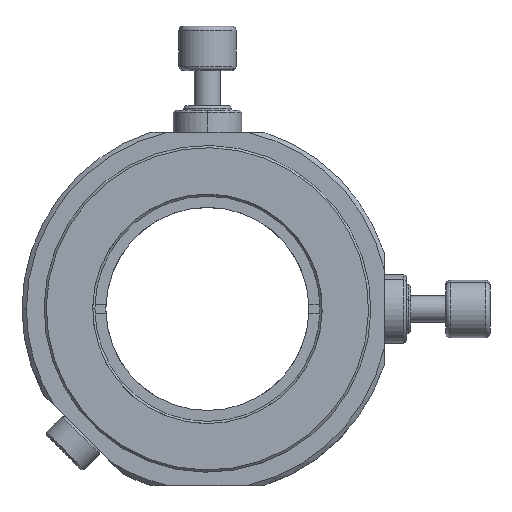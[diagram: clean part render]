
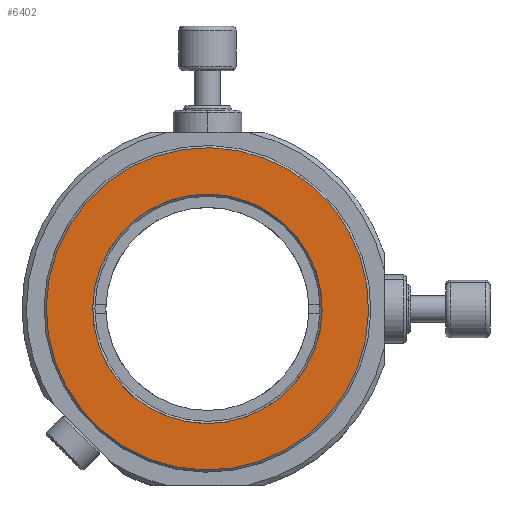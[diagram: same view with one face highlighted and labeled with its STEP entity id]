
A CAD part, top view. The second image highlights one B-rep face of the part: STEP entity #6402.
In plain terms, the highlighted planar face has unit normal (0, 0, 1).
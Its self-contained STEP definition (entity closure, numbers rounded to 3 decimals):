
#245 = DIRECTION ( 'NONE',  ( -0.483, 0.876, 0. ) ) ;
#248 = DIRECTION ( 'NONE',  ( 0., 0., 1. ) ) ;
#539 = AXIS2_PLACEMENT_3D ( 'NONE', #4267, #248, #3661 ) ;
#560 = EDGE_LOOP ( 'NONE', ( #6446, #3815 ) ) ;
#929 = VERTEX_POINT ( 'NONE', #2656 ) ;
#1027 = ORIENTED_EDGE ( 'NONE', *, *, #7204, .T. ) ;
#1042 = CARTESIAN_POINT ( 'NONE',  ( 1.422, -0.209, 26. ) ) ;
#1263 = FACE_OUTER_BOUND ( 'NONE', #560, .T. ) ;
#1362 = CIRCLE ( 'NONE', #539, 36.5 ) ;
#1575 = AXIS2_PLACEMENT_3D ( 'NONE', #5334, #6609, #3221 ) ;
#1678 = AXIS2_PLACEMENT_3D ( 'NONE', #6904, #2517, #245 ) ;
#2148 = CARTESIAN_POINT ( 'NONE',  ( 13.968, -22.982, 26. ) ) ;
#2517 = DIRECTION ( 'NONE',  ( 0., 0., 1. ) ) ;
#2518 = VERTEX_POINT ( 'NONE', #6725 ) ;
#2656 = CARTESIAN_POINT ( 'NONE',  ( 19.035, -32.178, 26. ) ) ;
#2747 = DIRECTION ( 'NONE',  ( 0., 0., -1. ) ) ;
#2770 = DIRECTION ( 'NONE',  ( -0.483, 0.876, 0. ) ) ;
#3221 = DIRECTION ( 'NONE',  ( -0.483, 0.876, 0. ) ) ;
#3395 = CIRCLE ( 'NONE', #1678, 36.5 ) ;
#3480 = FACE_BOUND ( 'NONE', #7053, .T. ) ;
#3661 = DIRECTION ( 'NONE',  ( -0.483, 0.876, 0. ) ) ;
#3815 = ORIENTED_EDGE ( 'NONE', *, *, #5906, .T. ) ;
#4215 = ORIENTED_EDGE ( 'NONE', *, *, #5053, .T. ) ;
#4267 = CARTESIAN_POINT ( 'NONE',  ( 1.422, -0.209, 26. ) ) ;
#4342 = AXIS2_PLACEMENT_3D ( 'NONE', #1042, #7170, #6576 ) ;
#4755 = CARTESIAN_POINT ( 'NONE',  ( -16.192, 31.759, 26. ) ) ;
#5005 = VERTEX_POINT ( 'NONE', #4755 ) ;
#5053 = EDGE_CURVE ( 'NONE', #2518, #5236, #5181, .T. ) ;
#5181 = CIRCLE ( 'NONE', #1575, 26. ) ;
#5236 = VERTEX_POINT ( 'NONE', #2148 ) ;
#5334 = CARTESIAN_POINT ( 'NONE',  ( 1.422, -0.209, 26. ) ) ;
#5409 = AXIS2_PLACEMENT_3D ( 'NONE', #6100, #2747, #2770 ) ;
#5413 = CIRCLE ( 'NONE', #5409, 26. ) ;
#5906 = EDGE_CURVE ( 'NONE', #929, #5005, #1362, .T. ) ;
#6100 = CARTESIAN_POINT ( 'NONE',  ( 1.422, -0.209, 26. ) ) ;
#6163 = EDGE_CURVE ( 'NONE', #5005, #929, #3395, .T. ) ;
#6402 = ADVANCED_FACE ( 'NONE', ( #1263, #3480 ), #6652, .F. ) ;
#6446 = ORIENTED_EDGE ( 'NONE', *, *, #6163, .T. ) ;
#6576 = DIRECTION ( 'NONE',  ( -0.483, 0.876, 0. ) ) ;
#6609 = DIRECTION ( 'NONE',  ( 0., 0., -1. ) ) ;
#6652 = PLANE ( 'NONE',  #4342 ) ;
#6725 = CARTESIAN_POINT ( 'NONE',  ( -11.125, 22.563, 26. ) ) ;
#6904 = CARTESIAN_POINT ( 'NONE',  ( 1.422, -0.209, 26. ) ) ;
#7053 = EDGE_LOOP ( 'NONE', ( #4215, #1027 ) ) ;
#7170 = DIRECTION ( 'NONE',  ( 0., 0., -1. ) ) ;
#7204 = EDGE_CURVE ( 'NONE', #5236, #2518, #5413, .T. ) ;
